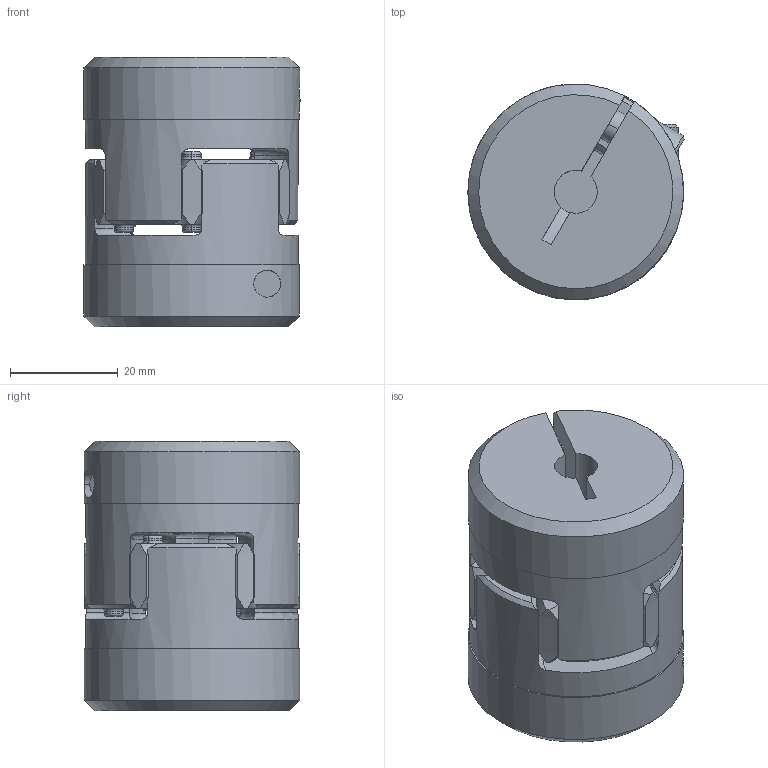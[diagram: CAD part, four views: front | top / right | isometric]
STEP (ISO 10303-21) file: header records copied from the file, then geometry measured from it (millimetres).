
FILE_DESCRIPTION((''),'2;1');
FILE_NAME('ROBA-ES__SIZE_19_TYPE_940_055','2021-06-25T14:27:15',('procad'),('Chr. Mayr GmbH + Co. KG'),'CREO PARAMETRIC BY PTC INC, 2019471','CREO PARAMETRIC BY PTC INC, 2019471','');
FILE_SCHEMA(('CONFIG_CONTROL_DESIGN','SHAPE_APPEARANCE_LAYERS_GROUPS'));
Length unit declared in the file: millimetre
Products named in the file (1): ROBA-ES__SIZE_19_TYPE_940_055
Bounding box: 40.09 x 40 x 50 mm (x, y, z)
Volume: 50857.8 mm3; surface area: 17397.8 mm2
Topology: 1 solids, 1 shells, 472 faces, 1301 edges, 828 vertices
Faces by surface type: plane 246, cylinder 108, cone 76, torus 42
Entity records: 19208 total; most frequent: CARTESIAN_POINT 3836, ORIENTED_EDGE 2594, DIRECTION 2411, EDGE_CURVE 1297, AXIS2_PLACEMENT_3D 854, VERTEX_POINT 828, VECTOR 703, LINE 703
